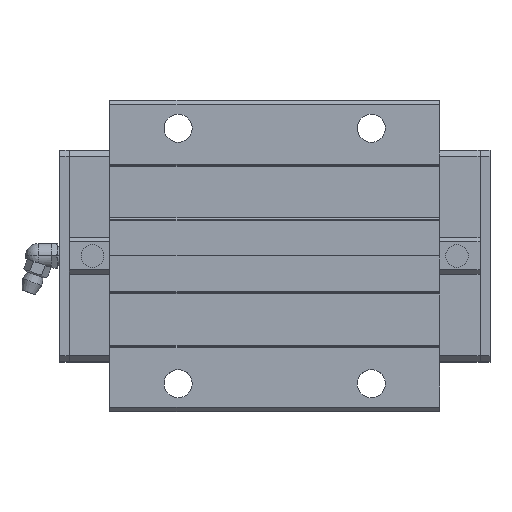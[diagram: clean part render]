
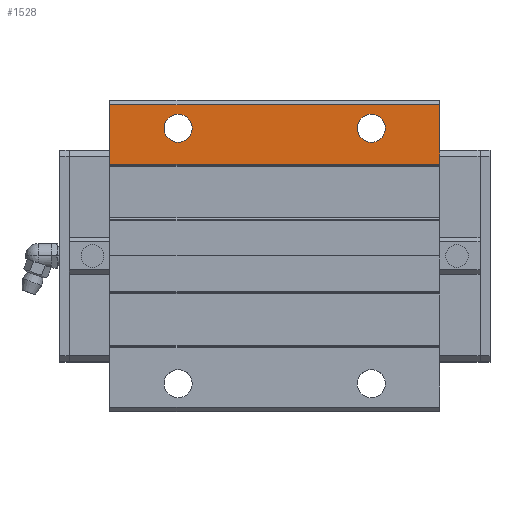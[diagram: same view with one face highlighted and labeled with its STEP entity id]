
A CAD part, top view. The second image highlights one B-rep face of the part: STEP entity #1528.
In plain terms, the highlighted planar face has unit normal (0, 0, 1).
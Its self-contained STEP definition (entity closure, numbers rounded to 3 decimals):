
#166=CARTESIAN_POINT('POINT14',(42.6,41.,41.5));
#167=VERTEX_POINT('VERTEX14',#166);
#174=CARTESIAN_POINT('POINT15',(33.6,41.,41.5
   ));
#175=VERTEX_POINT('VERTEX15',#174);
#176=CARTESIAN_POINT('POS19',(38.1,41.,41.5))
   ;
#177=DIRECTION('DIR27',(0.,0.,-1.));
#178=DIRECTION('DIR28',(1.,0.,0.));
#179=AXIS2_PLACEMENT_3D('AXIS9',#176,#177,#178);
#180=CIRCLE('ELLIPSE5',#179,4.5);
#181=EDGE_CURVE('EDGE17',#175,#167,#180,.T.);
#210=EDGE_CURVE('EDGE21',#167,#175,#180,.T.);
#217=CARTESIAN_POINT('POINT18',(104.6,41.,41.5));
#218=VERTEX_POINT('VERTEX18',#217);
#225=CARTESIAN_POINT('POINT19',(95.6,41.,41.5
   ));
#226=VERTEX_POINT('VERTEX19',#225);
#227=CARTESIAN_POINT('POS24',(100.1,41.,41.5)
   );
#228=DIRECTION('DIR35',(0.,0.,-1.));
#229=DIRECTION('DIR36',(1.,0.,0.));
#230=AXIS2_PLACEMENT_3D('AXIS12',#227,#228,#229);
#231=CIRCLE('ELLIPSE7',#230,4.5);
#232=EDGE_CURVE('EDGE23',#226,#218,#231,.T.);
#261=EDGE_CURVE('EDGE27',#218,#226,#231,.T.);
#1459=CARTESIAN_POINT('POINT101',(122.,29.5,
   41.5));
#1460=VERTEX_POINT('VERTEX101',#1459);
#1467=CARTESIAN_POINT('POINT102',(16.2,29.5,
   41.5));
#1468=VERTEX_POINT('VERTEX102',#1467);
#1469=CARTESIAN_POINT('POS153',(16.2,29.5,
   41.5));
#1470=DIRECTION('DIR218',(1.,0.,0.));
#1471=VECTOR('VEC88',#1470,1.);
#1472=LINE('STRAIGHT88',#1469,#1471);
#1473=EDGE_CURVE('EDGE139',#1468,#1460,#1472,.T.);
#1490=ORIENTED_EDGE('COEDGE207',*,*,#261,.T.);
#1491=ORIENTED_EDGE('COEDGE208',*,*,#232,.T.);
#1492=EDGE_LOOP('NONE',(#1490,#1491));
#1493=FACE_BOUND('LOOP1',#1492,.T.);
#1494=ORIENTED_EDGE('COEDGE209',*,*,#210,.T.);
#1495=ORIENTED_EDGE('COEDGE210',*,*,#181,.T.);
#1496=EDGE_LOOP('NONE',(#1494,#1495));
#1497=FACE_BOUND('LOOP1',#1496,.T.);
#1498=CARTESIAN_POINT('POINT103',(122.,48.5,
   41.5));
#1499=VERTEX_POINT('VERTEX103',#1498);
#1500=CARTESIAN_POINT('POS156',(122.,29.5,
   41.5));
#1501=DIRECTION('DIR222',(0.,1.,0.));
#1502=VECTOR('VEC90',#1501,1.);
#1503=LINE('STRAIGHT90',#1500,#1502);
#1504=EDGE_CURVE('EDGE141',#1460,#1499,#1503,.T.);
#1505=ORIENTED_EDGE('COEDGE211',*,*,#1504,.T.);
#1506=CARTESIAN_POINT('POINT104',(16.2,48.5,
   41.5));
#1507=VERTEX_POINT('VERTEX104',#1506);
#1508=CARTESIAN_POINT('POS157',(16.2,48.5,
   41.5));
#1509=DIRECTION('DIR223',(1.,0.,0.));
#1510=VECTOR('VEC91',#1509,1.);
#1511=LINE('STRAIGHT91',#1508,#1510);
#1512=EDGE_CURVE('EDGE142',#1507,#1499,#1511,.T.);
#1513=ORIENTED_EDGE('COEDGE212',*,*,#1512,.F.);
#1514=CARTESIAN_POINT('POS158',(16.2,29.5,
   41.5));
#1515=DIRECTION('DIR224',(0.,1.,0.));
#1516=VECTOR('VEC92',#1515,1.);
#1517=LINE('STRAIGHT92',#1514,#1516);
#1518=EDGE_CURVE('EDGE143',#1468,#1507,#1517,.T.);
#1519=ORIENTED_EDGE('COEDGE213',*,*,#1518,.F.);
#1520=ORIENTED_EDGE('COEDGE214',*,*,#1473,.T.);
#1521=EDGE_LOOP('NONE',(#1505,#1513,#1519,#1520));
#1522=FACE_BOUND('LOOP1',#1521,.T.);
#1523=CARTESIAN_POINT('POS159',(16.2,29.5,
   41.5));
#1524=DIRECTION('DIR225',(0.,0.,1.));
#1525=DIRECTION('DIR226',(1.,0.,0.));
#1526=AXIS2_PLACEMENT_3D('AXIS67',#1523,#1524,#1525);
#1527=PLANE('PLANE21',#1526);
#1528=ADVANCED_FACE('FACE43',(#1493,#1497,#1522),#1527,.T.);
